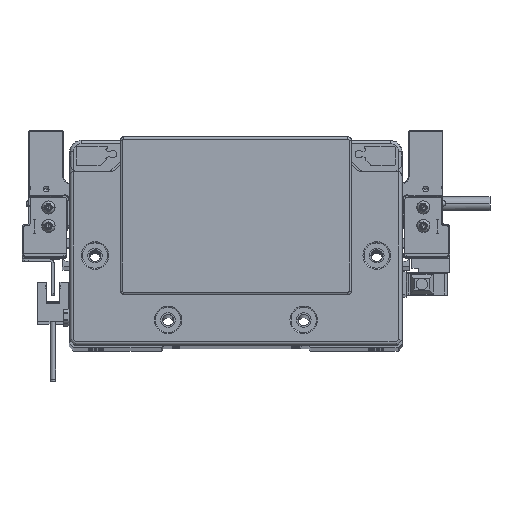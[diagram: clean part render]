
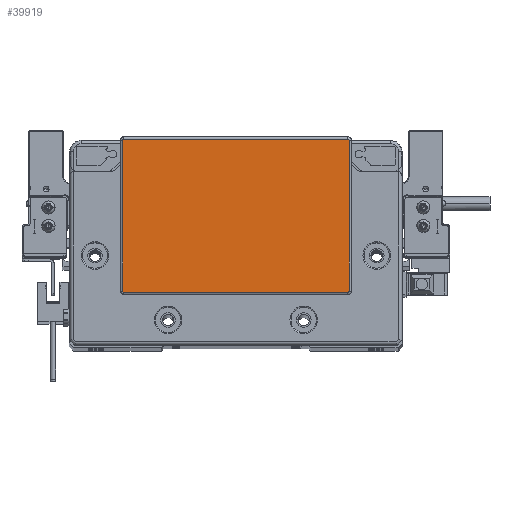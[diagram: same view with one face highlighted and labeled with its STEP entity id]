
A CAD part, top view. The second image highlights one B-rep face of the part: STEP entity #39919.
In plain terms, the highlighted planar face has unit normal (0, 0, 1) as drawn and (0, 0, -1) by its records, which use the part's own axes.
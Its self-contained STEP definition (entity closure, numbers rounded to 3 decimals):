
#2334 = VERTEX_POINT ( 'NONE', #87947 ) ;
#4371 = EDGE_CURVE ( 'NONE', #81805, #13180, #49069, .T. ) ;
#6255 = EDGE_CURVE ( 'NONE', #13180, #2334, #43205, .T. ) ;
#7834 = DIRECTION ( 'NONE',  ( 1., 0., 0. ) ) ;
#8104 = DIRECTION ( 'NONE',  ( 0., 0., -1. ) ) ;
#8312 = CARTESIAN_POINT ( 'NONE',  ( 48.75, 43.8, -2. ) ) ;
#10077 = ORIENTED_EDGE ( 'NONE', *, *, #16886, .T. ) ;
#13180 = VERTEX_POINT ( 'NONE', #88272 ) ;
#13424 = AXIS2_PLACEMENT_3D ( 'NONE', #47027, #21523, #73845 ) ;
#14527 = LINE ( 'NONE', #62733, #85261 ) ;
#16695 = VERTEX_POINT ( 'NONE', #79785 ) ;
#16886 = EDGE_CURVE ( 'NONE', #64276, #49279, #75286, .T. ) ;
#16927 = FACE_OUTER_BOUND ( 'NONE', #56117, .T. ) ;
#17912 = ORIENTED_EDGE ( 'NONE', *, *, #85918, .T. ) ;
#18314 = EDGE_CURVE ( 'NONE', #47187, #64276, #79494, .T. ) ;
#21123 = CARTESIAN_POINT ( 'NONE',  ( 48.75, -21.8, -2. ) ) ;
#21523 = DIRECTION ( 'NONE',  ( 0., 0., -1. ) ) ;
#23095 = CARTESIAN_POINT ( 'NONE',  ( -49.25, 43.8, -2. ) ) ;
#24591 = CIRCLE ( 'NONE', #48854, 0.5 ) ;
#26315 = VECTOR ( 'NONE', #31112, 1000. ) ;
#29381 = VECTOR ( 'NONE', #68572, 1000. ) ;
#30131 = CIRCLE ( 'NONE', #75780, 0.5 ) ;
#31112 = DIRECTION ( 'NONE',  ( -1., 0., 0. ) ) ;
#32224 = VECTOR ( 'NONE', #83412, 1000. ) ;
#34803 = CARTESIAN_POINT ( 'NONE',  ( 48.75, 44.3, -2. ) ) ;
#36135 = PLANE ( 'NONE',  #39480 ) ;
#39480 = AXIS2_PLACEMENT_3D ( 'NONE', #78953, #64663, #57993 ) ;
#39919 = ADVANCED_FACE ( 'NONE', ( #16927 ), #36135, .T. ) ;
#40127 = ORIENTED_EDGE ( 'NONE', *, *, #79751, .T. ) ;
#41341 = CARTESIAN_POINT ( 'NONE',  ( 49.25, -21.8, -2. ) ) ;
#43205 = LINE ( 'NONE', #23095, #32224 ) ;
#45423 = CARTESIAN_POINT ( 'NONE',  ( -48.75, 44.3, -2. ) ) ;
#47027 = CARTESIAN_POINT ( 'NONE',  ( -48.75, -21.8, -2. ) ) ;
#47187 = VERTEX_POINT ( 'NONE', #34803 ) ;
#47867 = CARTESIAN_POINT ( 'NONE',  ( -48.75, 43.8, -2. ) ) ;
#47942 = DIRECTION ( 'NONE',  ( -1., 0., 0. ) ) ;
#48854 = AXIS2_PLACEMENT_3D ( 'NONE', #47867, #8104, #61665 ) ;
#49069 = CIRCLE ( 'NONE', #13424, 0.5 ) ;
#49279 = VERTEX_POINT ( 'NONE', #77434 ) ;
#49839 = DIRECTION ( 'NONE',  ( -1., 0., 0. ) ) ;
#50788 = LINE ( 'NONE', #86021, #26315 ) ;
#51591 = ORIENTED_EDGE ( 'NONE', *, *, #6255, .T. ) ;
#56117 = EDGE_LOOP ( 'NONE', ( #10077, #40127, #17912, #71259, #51591, #84803, #87324, #87360 ) ) ;
#57993 = DIRECTION ( 'NONE',  ( -1., 0., 0. ) ) ;
#58343 = EDGE_CURVE ( 'NONE', #80538, #47187, #14527, .T. ) ;
#59369 = CARTESIAN_POINT ( 'NONE',  ( -48.75, -22.3, -2. ) ) ;
#61665 = DIRECTION ( 'NONE',  ( -1., 0., 0. ) ) ;
#62733 = CARTESIAN_POINT ( 'NONE',  ( 48.75, 44.3, -2. ) ) ;
#64276 = VERTEX_POINT ( 'NONE', #74914 ) ;
#64663 = DIRECTION ( 'NONE',  ( 0., 0., -1. ) ) ;
#68572 = DIRECTION ( 'NONE',  ( 0., -1., 0. ) ) ;
#71259 = ORIENTED_EDGE ( 'NONE', *, *, #4371, .T. ) ;
#73845 = DIRECTION ( 'NONE',  ( -1., 0., 0. ) ) ;
#74914 = CARTESIAN_POINT ( 'NONE',  ( 49.25, 43.8, -2. ) ) ;
#75286 = LINE ( 'NONE', #41341, #29381 ) ;
#75780 = AXIS2_PLACEMENT_3D ( 'NONE', #21123, #88135, #47942 ) ;
#77434 = CARTESIAN_POINT ( 'NONE',  ( 49.25, -21.8, -2. ) ) ;
#78953 = CARTESIAN_POINT ( 'NONE',  ( 0., 0., -2. ) ) ;
#79494 = CIRCLE ( 'NONE', #83835, 0.5 ) ;
#79751 = EDGE_CURVE ( 'NONE', #49279, #16695, #30131, .T. ) ;
#79785 = CARTESIAN_POINT ( 'NONE',  ( 48.75, -22.3, -2. ) ) ;
#80538 = VERTEX_POINT ( 'NONE', #45423 ) ;
#81805 = VERTEX_POINT ( 'NONE', #59369 ) ;
#82683 = EDGE_CURVE ( 'NONE', #2334, #80538, #24591, .T. ) ;
#83412 = DIRECTION ( 'NONE',  ( 0., 1., 0. ) ) ;
#83760 = DIRECTION ( 'NONE',  ( 0., 0., -1. ) ) ;
#83835 = AXIS2_PLACEMENT_3D ( 'NONE', #8312, #83760, #49839 ) ;
#84803 = ORIENTED_EDGE ( 'NONE', *, *, #82683, .T. ) ;
#85261 = VECTOR ( 'NONE', #7834, 1000. ) ;
#85918 = EDGE_CURVE ( 'NONE', #16695, #81805, #50788, .T. ) ;
#86021 = CARTESIAN_POINT ( 'NONE',  ( -48.75, -22.3, -2. ) ) ;
#87324 = ORIENTED_EDGE ( 'NONE', *, *, #58343, .T. ) ;
#87360 = ORIENTED_EDGE ( 'NONE', *, *, #18314, .T. ) ;
#87947 = CARTESIAN_POINT ( 'NONE',  ( -49.25, 43.8, -2. ) ) ;
#88135 = DIRECTION ( 'NONE',  ( 0., 0., -1. ) ) ;
#88272 = CARTESIAN_POINT ( 'NONE',  ( -49.25, -21.8, -2. ) ) ;
